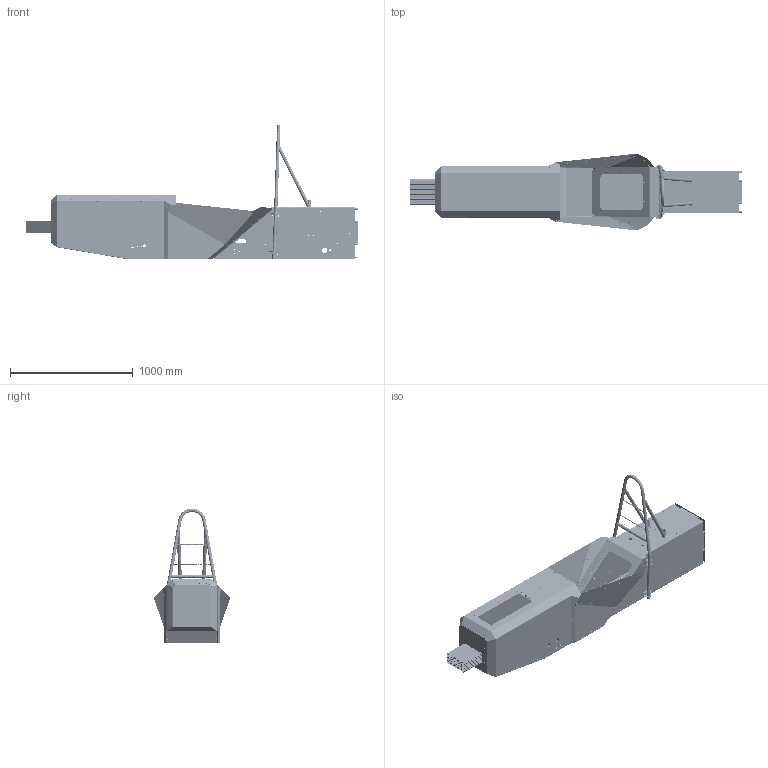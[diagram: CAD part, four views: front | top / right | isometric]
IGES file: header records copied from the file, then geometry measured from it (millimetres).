
Global section: file name: G:\.shortcut-targets-by-id\0B4Q-qvMPKEocVHFPeXFldDlFM2s\s3racing\CAD\CAD-s3-23e-Assembly\(M06 - CH) Chassis\(98)SE3D\masm_23e_chassis.igs; native system: NX V10.0; preprocessor: SIEMENS PLM Software NX 10.0; date: 20230316.205453; units: millimetre
Bounding box: 2702.22 x 624.39 x 1096.98 mm (x, y, z)
Surface area: 24960594 mm2 (no closed solid volume)
Topology: 0 solids, 0 shells, 12154 faces, 117884 edges, 114301 vertices
Faces by surface type: bspline 12142, offset 12
